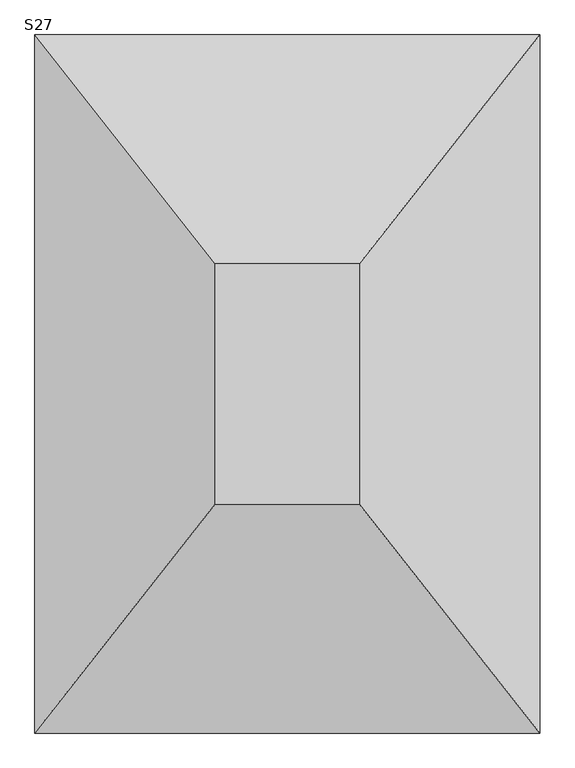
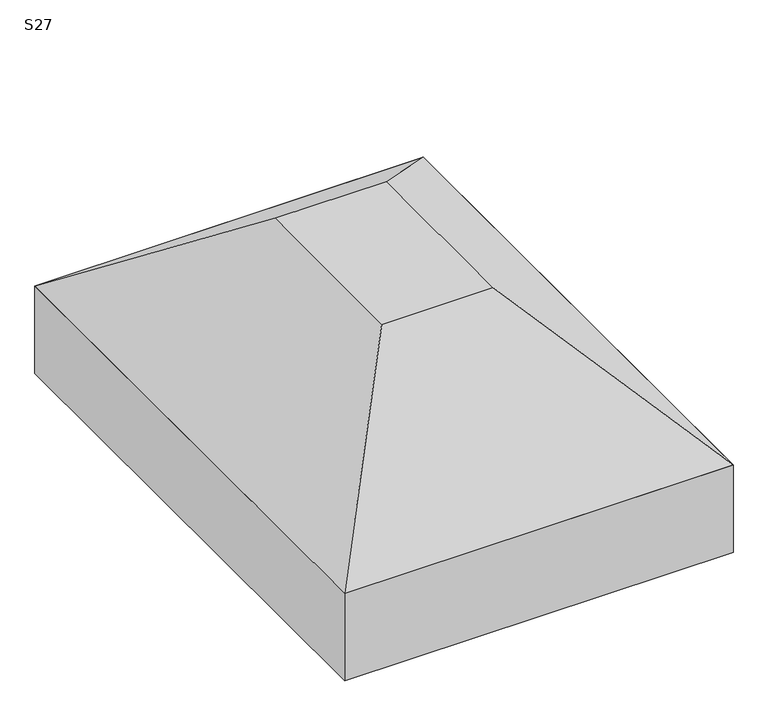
"""IFC4 building model written with IfcOpenShell, lengths in millimetres: fastener geometry, TQS - Sapata : S27."""

from ifc_helpers import new_model, si_unit, frame, origin, place, context, project, spatial, polyline, outline, extrude, faceted_brep, source, transform, mapped, element, save


def s27_cbfd85cb(model_context):
    return source(origin(), model_context, "Body", "SolidModel", [
        faceted_brep([(-50.0, 50.0, 0.0), (-350.0, 50.0, 0.0), (-350.0, -450.0, 0.0), (-50.0, -450.0, 0.0), (325.0, 525.0, -350.0), (325.0, -925.0, -350.0), (-725.0, -925.0, -350.0), (-725.0, 525.0, -350.0)], [[[0, 1, 2, 3]], [[4, 5, 6, 7]], [[4, 7, 1, 0]], [[7, 6, 2, 1]], [[6, 5, 3, 2]], [[5, 4, 0, 3]]]),
        extrude(outline(polyline([(325.0, 525.0), (325.0, -925.0), (-725.0, -925.0), (-725.0, 525.0), (325.0, 525.0)])), frame((0.0, 0.0, -600.0), z_axis=(0.0, 0.0, 1.0), x_axis=(1.0, 0.0, 0.0)), (0.0, 0.0, 1.0), 250.0),
    ])


if __name__ == "__main__":
    model = new_model("IFC4")
    model_context = context("Model", 3, world=origin())
    ifc_project = project(units=[si_unit("LENGTHUNIT", "METRE", prefix="MILLI")], contexts=[model_context])
    site = spatial("IfcSite", under=ifc_project)
    building = spatial("IfcBuilding", under=site)
    placement = place(None, origin())
    s27_shape = s27_cbfd85cb(model_context)
    element("IfcFastener", 1, ObjectType="TQS - Sapata : S27", at=placement, inside=building, context=model_context, shape_type="MappedRepresentation", body=[
        mapped(s27_shape, transform((0.0, 0.0, 0.0), x_axis=(1.0, 0.0, 0.0), y_axis=(0.0, 1.0, 0.0), z_axis=(0.0, 0.0, 1.0))),
    ])
    save(model, "model.ifc")
